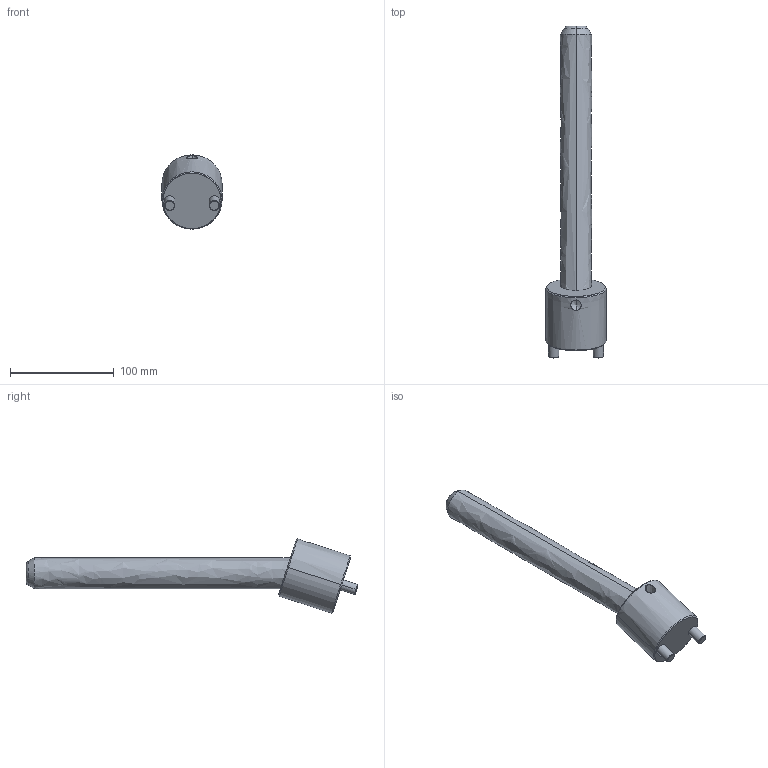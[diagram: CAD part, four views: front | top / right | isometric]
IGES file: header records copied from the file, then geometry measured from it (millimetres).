
Start section: START RECORD GO HERE.
Global section: file name: CI1830250.igs; native system: DASSAULT SYSTEMES CATIA V5 R20 - www.3ds.com; preprocessor: CATIA Version 5 Release 20 ; author: r.borello; organization: CFTORINO; date: 20190624.094834; units: millimetre
Bounding box: 58 x 319.82 x 71.54 mm (x, y, z)
Surface area: 49612.3 mm2 (no closed solid volume)
Topology: 0 solids, 0 shells, 39 faces, 162 edges, 160 vertices
Faces by surface type: revolution 32, plane 7
